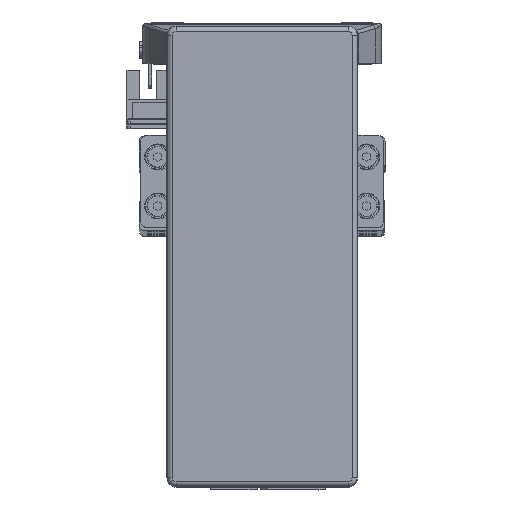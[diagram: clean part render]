
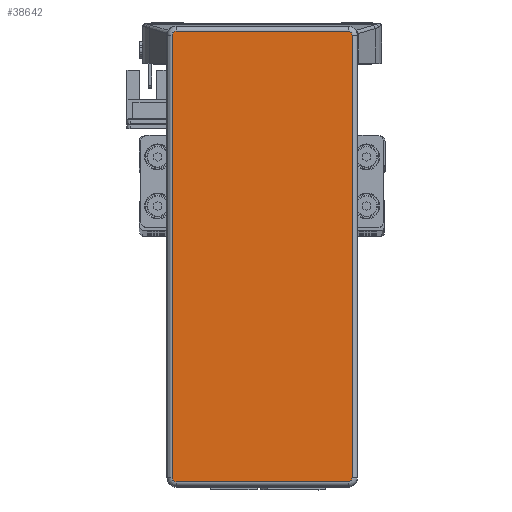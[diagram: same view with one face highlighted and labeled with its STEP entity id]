
A CAD part, top view. The second image highlights one B-rep face of the part: STEP entity #38642.
In plain terms, the highlighted planar face has unit normal (0, 0, 1) as drawn and (0, 0, -1) by its records, which use the part's own axes.
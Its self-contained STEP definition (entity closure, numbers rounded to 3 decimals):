
#2590 = AXIS2_PLACEMENT_3D ( 'NONE', #19842, #19846, #19865 ) ;
#4875 = EDGE_CURVE ( 'NONE', #47731, #47786, #12725, .T. ) ;
#4906 = EDGE_CURVE ( 'NONE', #47759, #47783, #12839, .T. ) ;
#4907 = EDGE_CURVE ( 'NONE', #47742, #47753, #12828, .T. ) ;
#4908 = EDGE_CURVE ( 'NONE', #47753, #47759, #12860, .T. ) ;
#4913 = EDGE_CURVE ( 'NONE', #47783, #47731, #12840, .T. ) ;
#4918 = EDGE_CURVE ( 'NONE', #47761, #47768, #12861, .T. ) ;
#4920 = EDGE_CURVE ( 'NONE', #47786, #47761, #12815, .T. ) ;
#4922 = EDGE_CURVE ( 'NONE', #47768, #47742, #12826, .T. ) ;
#5836 = AXIS2_PLACEMENT_3D ( 'NONE', #30876, #30892, #30868 ) ;
#5840 = AXIS2_PLACEMENT_3D ( 'NONE', #30842, #30848, #30893 ) ;
#5867 = AXIS2_PLACEMENT_3D ( 'NONE', #30755, #30810, #30751 ) ;
#5875 = AXIS2_PLACEMENT_3D ( 'NONE', #30817, #30822, #30783 ) ;
#9742 = EDGE_LOOP ( 'NONE', ( #44620, #44526, #44529, #44669, #44690, #44627, #44635, #44518 ) ) ;
#12721 = VECTOR ( 'NONE', #30568, 1000. ) ;
#12725 = LINE ( 'NONE', #30531, #12721 ) ;
#12815 = CIRCLE ( 'NONE', #5836, 1.3 ) ;
#12826 = CIRCLE ( 'NONE', #5840, 1.3 ) ;
#12828 = LINE ( 'NONE', #30770, #12830 ) ;
#12830 = VECTOR ( 'NONE', #30808, 1000. ) ;
#12839 = LINE ( 'NONE', #30736, #12853 ) ;
#12840 = CIRCLE ( 'NONE', #5875, 1.3 ) ;
#12853 = VECTOR ( 'NONE', #30774, 1000. ) ;
#12860 = CIRCLE ( 'NONE', #5867, 1.3 ) ;
#12861 = LINE ( 'NONE', #30788, #12872 ) ;
#12872 = VECTOR ( 'NONE', #30801, 1000. ) ;
#19829 = PLANE ( 'NONE',  #2590 ) ;
#19842 = CARTESIAN_POINT ( 'NONE',  ( 71.995, -27.995, -32.2 ) ) ;
#19846 = DIRECTION ( 'NONE',  ( 0., 0., 1. ) ) ;
#19865 = DIRECTION ( 'NONE',  ( 1., 0., 0. ) ) ;
#20664 = FACE_OUTER_BOUND ( 'NONE', #9742, .T. ) ;
#26861 = CARTESIAN_POINT ( 'NONE',  ( -71.995, 29.295, -32.2 ) ) ;
#26875 = CARTESIAN_POINT ( 'NONE',  ( 73.295, 27.995, -32.2 ) ) ;
#26877 = CARTESIAN_POINT ( 'NONE',  ( 71.995, 29.295, -32.2 ) ) ;
#26879 = CARTESIAN_POINT ( 'NONE',  ( -73.295, 27.995, -32.2 ) ) ;
#26884 = CARTESIAN_POINT ( 'NONE',  ( 73.295, -27.995, -32.2 ) ) ;
#26903 = CARTESIAN_POINT ( 'NONE',  ( -73.295, -27.995, -32.2 ) ) ;
#26904 = CARTESIAN_POINT ( 'NONE',  ( 71.995, -29.295, -32.2 ) ) ;
#26919 = CARTESIAN_POINT ( 'NONE',  ( -71.995, -29.295, -32.2 ) ) ;
#30531 = CARTESIAN_POINT ( 'NONE',  ( 71.995, -29.295, -32.2 ) ) ;
#30568 = DIRECTION ( 'NONE',  ( -1., 0., 0. ) ) ;
#30736 = CARTESIAN_POINT ( 'NONE',  ( 73.295, -27.995, -32.2 ) ) ;
#30751 = DIRECTION ( 'NONE',  ( 1., 0., 0. ) ) ;
#30755 = CARTESIAN_POINT ( 'NONE',  ( 71.995, 27.995, -32.2 ) ) ;
#30770 = CARTESIAN_POINT ( 'NONE',  ( 71.995, 29.295, -32.2 ) ) ;
#30774 = DIRECTION ( 'NONE',  ( 0., -1., 0. ) ) ;
#30783 = DIRECTION ( 'NONE',  ( 1., 0., 0. ) ) ;
#30788 = CARTESIAN_POINT ( 'NONE',  ( -73.295, -27.995, -32.2 ) ) ;
#30801 = DIRECTION ( 'NONE',  ( 0., 1., 0. ) ) ;
#30808 = DIRECTION ( 'NONE',  ( 1., 0., 0. ) ) ;
#30810 = DIRECTION ( 'NONE',  ( 0., 0., -1. ) ) ;
#30817 = CARTESIAN_POINT ( 'NONE',  ( 71.995, -27.995, -32.2 ) ) ;
#30822 = DIRECTION ( 'NONE',  ( 0., 0., -1. ) ) ;
#30842 = CARTESIAN_POINT ( 'NONE',  ( -71.995, 27.995, -32.2 ) ) ;
#30848 = DIRECTION ( 'NONE',  ( 0., 0., -1. ) ) ;
#30868 = DIRECTION ( 'NONE',  ( 1., 0., 0. ) ) ;
#30876 = CARTESIAN_POINT ( 'NONE',  ( -71.995, -27.995, -32.2 ) ) ;
#30892 = DIRECTION ( 'NONE',  ( 0., 0., -1. ) ) ;
#30893 = DIRECTION ( 'NONE',  ( 1., 0., 0. ) ) ;
#38642 = ADVANCED_FACE ( 'NONE', ( #20664 ), #19829, .F. ) ;
#44518 = ORIENTED_EDGE ( 'NONE', *, *, #4908, .T. ) ;
#44526 = ORIENTED_EDGE ( 'NONE', *, *, #4913, .T. ) ;
#44529 = ORIENTED_EDGE ( 'NONE', *, *, #4875, .T. ) ;
#44620 = ORIENTED_EDGE ( 'NONE', *, *, #4906, .T. ) ;
#44627 = ORIENTED_EDGE ( 'NONE', *, *, #4922, .T. ) ;
#44635 = ORIENTED_EDGE ( 'NONE', *, *, #4907, .T. ) ;
#44669 = ORIENTED_EDGE ( 'NONE', *, *, #4920, .T. ) ;
#44690 = ORIENTED_EDGE ( 'NONE', *, *, #4918, .T. ) ;
#47731 = VERTEX_POINT ( 'NONE', #26904 ) ;
#47742 = VERTEX_POINT ( 'NONE', #26861 ) ;
#47753 = VERTEX_POINT ( 'NONE', #26877 ) ;
#47759 = VERTEX_POINT ( 'NONE', #26875 ) ;
#47761 = VERTEX_POINT ( 'NONE', #26903 ) ;
#47768 = VERTEX_POINT ( 'NONE', #26879 ) ;
#47783 = VERTEX_POINT ( 'NONE', #26884 ) ;
#47786 = VERTEX_POINT ( 'NONE', #26919 ) ;
